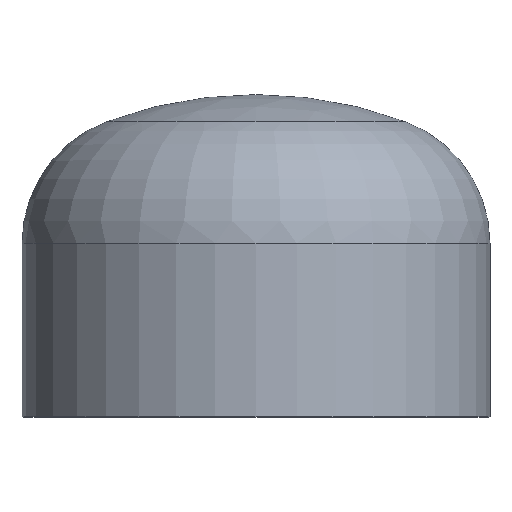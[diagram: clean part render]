
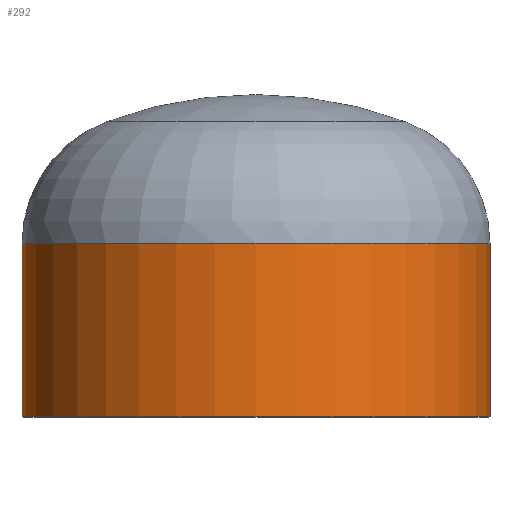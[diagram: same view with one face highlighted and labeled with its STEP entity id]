
A CAD part, top view. The second image highlights one B-rep face of the part: STEP entity #292.
In plain terms, the highlighted cylindrical face has radius 161.95 mm (diameter 323.9 mm), a partial arc.
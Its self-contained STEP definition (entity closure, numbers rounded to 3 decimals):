
#2 = VERTEX_POINT ( 'NONE', #248 ) ;
#28 = AXIS2_PLACEMENT_3D ( 'NONE', #174, #177, #54 ) ;
#29 = VERTEX_POINT ( 'NONE', #294 ) ;
#54 = DIRECTION ( 'NONE',  ( 1., 0., 0. ) ) ;
#56 = ORIENTED_EDGE ( 'NONE', *, *, #100, .T. ) ;
#68 = ORIENTED_EDGE ( 'NONE', *, *, #378, .F. ) ;
#78 = ORIENTED_EDGE ( 'NONE', *, *, #370, .T. ) ;
#83 = VERTEX_POINT ( 'NONE', #297 ) ;
#87 = AXIS2_PLACEMENT_3D ( 'NONE', #328, #327, #326 ) ;
#88 = ORIENTED_EDGE ( 'NONE', *, *, #103, .F. ) ;
#100 = EDGE_CURVE ( 'NONE', #361, #29, #279, .T. ) ;
#103 = EDGE_CURVE ( 'NONE', #361, #83, #272, .T. ) ;
#118 = EDGE_LOOP ( 'NONE', ( #56, #78, #68, #88 ) ) ;
#145 = VECTOR ( 'NONE', #347, 1000. ) ;
#170 = CARTESIAN_POINT ( 'NONE',  ( -161.95, 0., 0. ) ) ;
#174 = CARTESIAN_POINT ( 'NONE',  ( 0., 0., 0. ) ) ;
#177 = DIRECTION ( 'NONE',  ( 0., -1., 0. ) ) ;
#193 = CARTESIAN_POINT ( 'NONE',  ( 161.95, 120., 0. ) ) ;
#211 = VECTOR ( 'NONE', #324, 1000. ) ;
#240 = CARTESIAN_POINT ( 'NONE',  ( 0., 0., 0. ) ) ;
#248 = CARTESIAN_POINT ( 'NONE',  ( -161.95, 0., 0. ) ) ;
#265 = DIRECTION ( 'NONE',  ( 1., 0., 0. ) ) ;
#272 = LINE ( 'NONE', #336, #211 ) ;
#274 = LINE ( 'NONE', #170, #145 ) ;
#279 = CIRCLE ( 'NONE', #87, 161.95 ) ;
#292 = ADVANCED_FACE ( 'NONE', ( #293 ), #364, .T. ) ;
#293 = FACE_OUTER_BOUND ( 'NONE', #118, .T. ) ;
#294 = CARTESIAN_POINT ( 'NONE',  ( -161.95, 120., 0. ) ) ;
#297 = CARTESIAN_POINT ( 'NONE',  ( 161.95, 0., 0. ) ) ;
#304 = AXIS2_PLACEMENT_3D ( 'NONE', #240, #404, #265 ) ;
#324 = DIRECTION ( 'NONE',  ( 0., -1., 0. ) ) ;
#326 = DIRECTION ( 'NONE',  ( 1., 0., 0. ) ) ;
#327 = DIRECTION ( 'NONE',  ( 0., -1., 0. ) ) ;
#328 = CARTESIAN_POINT ( 'NONE',  ( 0., 120., 0. ) ) ;
#336 = CARTESIAN_POINT ( 'NONE',  ( 161.95, 0., 0. ) ) ;
#347 = DIRECTION ( 'NONE',  ( 0., -1., 0. ) ) ;
#361 = VERTEX_POINT ( 'NONE', #193 ) ;
#364 = CYLINDRICAL_SURFACE ( 'NONE', #28, 161.95 ) ;
#370 = EDGE_CURVE ( 'NONE', #29, #2, #274, .T. ) ;
#378 = EDGE_CURVE ( 'NONE', #83, #2, #394, .T. ) ;
#394 = CIRCLE ( 'NONE', #304, 161.95 ) ;
#404 = DIRECTION ( 'NONE',  ( 0., -1., 0. ) ) ;
